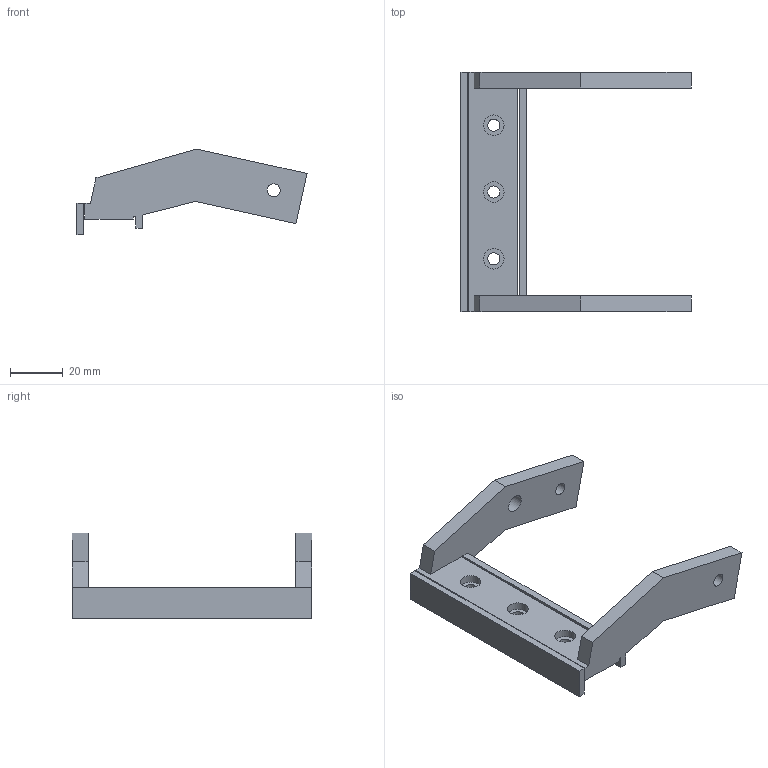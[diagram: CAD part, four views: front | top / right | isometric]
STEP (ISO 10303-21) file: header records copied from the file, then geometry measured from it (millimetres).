
FILE_DESCRIPTION(('Open CASCADE Model'),'2;1');
FILE_NAME('Open CASCADE Shape Model','2026-10-15T20:36:14',('Author'),( 'Open CASCADE'),'Open CASCADE STEP processor 7.9','Open CASCADE 7.9' ,'Unknown');
FILE_SCHEMA(('AUTOMOTIVE_DESIGN { 1 0 10303 214 1 1 1 1 }'));
Length unit declared in the file: millimetre
Products named in the file (3): Open CASCADE STEP translator 7.9 3; Open CASCADE STEP translator 7.9 3.1; Open CASCADE STEP translator 7.9 3.2
Assembly tree (2 placements, depth 2):
  Open CASCADE STEP translator 7.9 3
    Open CASCADE STEP translator 7.9 3.1
    Open CASCADE STEP translator 7.9 3.2
Bounding box: 87.52 x 91 x 32.68 mm (x, y, z)
Volume: 31388.3 mm3; surface area: 17462.3 mm2
Topology: 2 solids, 2 shells, 44 faces, 117 edges, 78 vertices
Faces by surface type: plane 35, cylinder 9
Full cylindrical faces by diameter (mm): 4.6 x3, 4.9 x2, 6.8 x1, 7.8 x3
Entity records: 2952 total; most frequent: CARTESIAN_POINT 584, DIRECTION 415, LINE 279, VECTOR 279, ORIENTED_EDGE 234, PCURVE 234, DEFINITIONAL_REPRESENTATION 234, EDGE_CURVE 117
